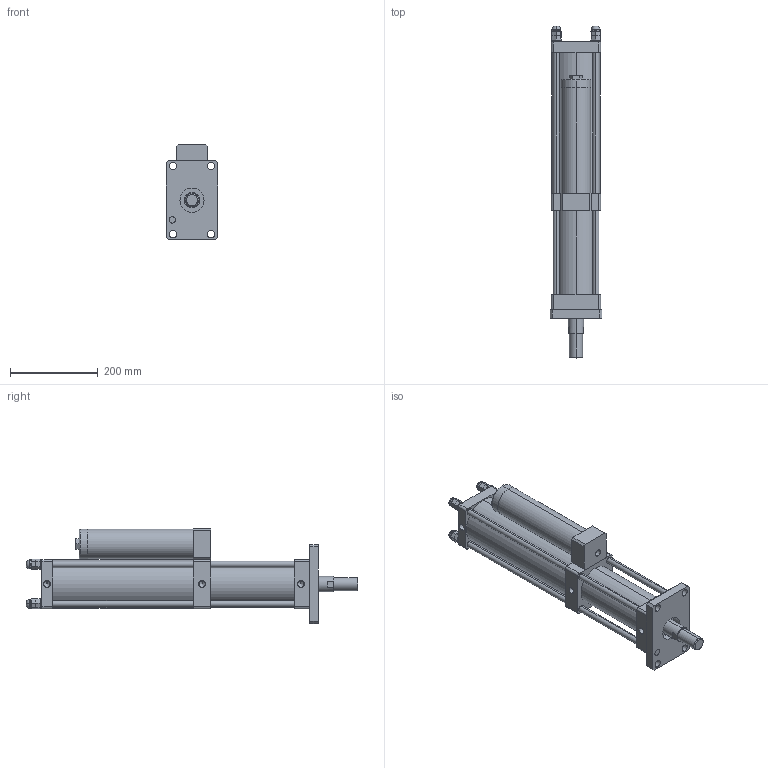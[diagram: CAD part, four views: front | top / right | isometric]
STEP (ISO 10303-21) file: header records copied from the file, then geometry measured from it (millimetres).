
FILE_DESCRIPTION (( 'STEP AP203' ), '1' );
FILE_NAME ('MPTC-80-15-8T.STEP', '2016-03-15T07:27:11', ( 'WIN' ), ( '' ), 'SwSTEP 2.0', 'SolidWorks 2014', '' );
FILE_SCHEMA (( 'CONFIG_CONTROL_DESIGN' ));
Length unit declared in the file: millimetre
Products named in the file (1): MPTC-80-15-8T
Bounding box: 118 x 756.07 x 217 mm (x, y, z)
Volume: 5744023.3 mm3; surface area: 668645.9 mm2
Topology: 17 solids, 17 shells, 390 faces, 959 edges, 558 vertices
Faces by surface type: plane 180, cylinder 90, bspline 48, torus 46, cone 26
Entity records: 12581 total; most frequent: CARTESIAN_POINT 3666, DIRECTION 1874, ORIENTED_EDGE 1786, EDGE_CURVE 893, AXIS2_PLACEMENT_3D 686, VERTEX_POINT 558, VECTOR 502, LINE 502
